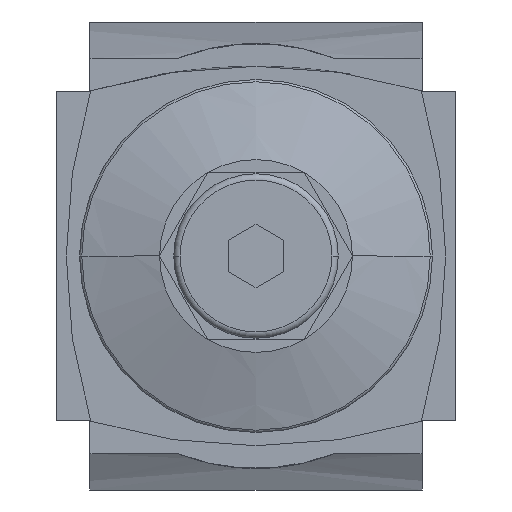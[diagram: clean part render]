
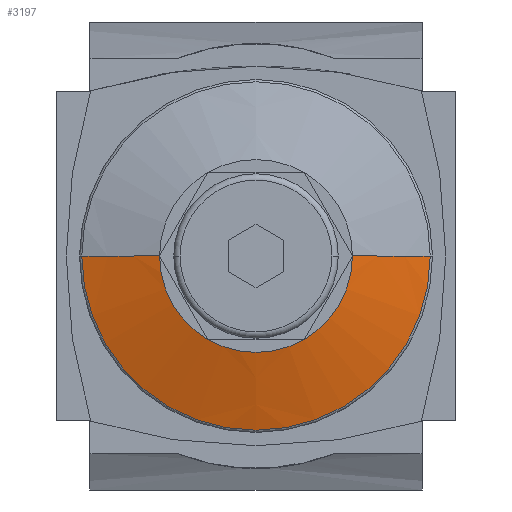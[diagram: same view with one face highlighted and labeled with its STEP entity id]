
A CAD part, front view. The second image highlights one B-rep face of the part: STEP entity #3197.
In plain terms, the highlighted free-form (B-spline) face has degree [3, 3] with [7, 4] control points.
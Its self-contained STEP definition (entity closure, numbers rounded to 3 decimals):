
#2634=CARTESIAN_POINT('',(0.,0.,464.379));
#2635=DIRECTION('',(0.,0.,1.));
#2636=DIRECTION('',(1.,0.,0.));
#2637=AXIS2_PLACEMENT_3D('',#2634,#2635,#2636);
#2639=CARTESIAN_POINT('',(0.,0.,467.797));
#2640=DIRECTION('',(0.,0.,1.));
#2641=DIRECTION('',(1.,0.,0.));
#2642=AXIS2_PLACEMENT_3D('',#2639,#2640,#2641);
#2644=CARTESIAN_POINT('',(0.,0.,467.797));
#2645=DIRECTION('',(0.,0.,1.));
#2646=DIRECTION('',(0.5,0.866,0.));
#2647=AXIS2_PLACEMENT_3D('',#2644,#2645,#2646);
#2649=CARTESIAN_POINT('',(0.,0.,467.797));
#2650=DIRECTION('',(0.,0.,1.));
#2651=DIRECTION('',(-0.5,0.866,0.));
#2652=AXIS2_PLACEMENT_3D('',#2649,#2650,#2651);
#2861=CARTESIAN_POINT('',(-77.654,0.,109.651));
#2862=DIRECTION('',(0.,1.,0.));
#2863=DIRECTION('',(0.251,0.,0.968));
#2864=AXIS2_PLACEMENT_3D('',#2861,#2862,#2863);
#2866=CARTESIAN_POINT('',(77.654,0.,
109.651));
#2867=DIRECTION('',(0.,-1.,0.));
#2868=DIRECTION('',(-0.251,0.,0.968));
#2869=AXIS2_PLACEMENT_3D('',#2866,#2867,#2868);
#2897=CARTESIAN_POINT('',(27.548,0.,464.379));
#2899=VERTEX_POINT('',#2897);
#2903=CARTESIAN_POINT('',(-27.548,0.,464.379));
#2905=VERTEX_POINT('',#2903);
#2923=CARTESIAN_POINT('',(15.25,0.,467.797));
#2924=CARTESIAN_POINT('',(7.625,13.207,467.797));
#2925=VERTEX_POINT('',#2923);
#2926=VERTEX_POINT('',#2924);
#2927=CARTESIAN_POINT('',(-7.625,13.207,467.797));
#2928=VERTEX_POINT('',#2927);
#2929=CARTESIAN_POINT('',(-15.25,0.,467.797));
#2930=VERTEX_POINT('',#2929);
#3155=CARTESIAN_POINT('',(27.738,-1.745,464.307));
#3156=CARTESIAN_POINT('',(23.505,-1.479,465.568));
#3157=CARTESIAN_POINT('',(19.249,-1.211,466.753));
#3158=CARTESIAN_POINT('',(14.973,-0.942,
467.861));
#3159=CARTESIAN_POINT('',(28.812,15.325,464.307));
#3160=CARTESIAN_POINT('',(24.415,12.986,465.568));
#3161=CARTESIAN_POINT('',(19.994,10.635,466.753));
#3162=CARTESIAN_POINT('',(15.553,8.272,467.861));
#3163=CARTESIAN_POINT('',(17.104,27.793,464.307));
#3164=CARTESIAN_POINT('',(14.493,23.551,465.568));
#3165=CARTESIAN_POINT('',(11.869,19.287,466.753));
#3166=CARTESIAN_POINT('',(9.233,15.003,467.861));
#3167=CARTESIAN_POINT('',(0.,27.793,464.307));
#3168=CARTESIAN_POINT('',(0.,23.551,465.568));
#3169=CARTESIAN_POINT('',(0.,19.287,466.753));
#3170=CARTESIAN_POINT('',(0.,15.003,467.861));
#3171=CARTESIAN_POINT('',(-17.104,27.793,464.307));
#3172=CARTESIAN_POINT('',(-14.493,23.551,465.568));
#3173=CARTESIAN_POINT('',(-11.869,19.287,466.753));
#3174=CARTESIAN_POINT('',(-9.233,15.003,467.861));
#3175=CARTESIAN_POINT('',(-28.812,15.325,464.307));
#3176=CARTESIAN_POINT('',(-24.415,12.986,465.568));
#3177=CARTESIAN_POINT('',(-19.994,10.635,466.753));
#3178=CARTESIAN_POINT('',(-15.553,8.272,467.861));
#3179=CARTESIAN_POINT('',(-27.738,-1.745,
464.307));
#3180=CARTESIAN_POINT('',(-23.505,-1.479,
465.568));
#3181=CARTESIAN_POINT('',(-19.249,-1.211,
466.753));
#3182=CARTESIAN_POINT('',(-14.973,-0.942,
467.861));
#3183=(BOUNDED_SURFACE()B_SPLINE_SURFACE(3,3,((#3155,#3156,#3157,#3158),(#3159,
#3160,#3161,#3162),(#3163,#3164,#3165,#3166),(#3167,#3168,#3169,#3170),(#3171,
#3172,#3173,#3174),(#3175,#3176,#3177,#3178),(#3179,#3180,#3181,#3182)),
.UNSPECIFIED.,.F.,.F.,.F.)B_SPLINE_SURFACE_WITH_KNOTS((4,3,4),(4,4),(0.,1.,
2.),(0.,1.),.UNSPECIFIED.)GEOMETRIC_REPRESENTATION_ITEM()RATIONAL_B_SPLINE_SURFACE(((1.187,1.187,1.187,1.187),(
0.938,0.938,0.938,0.938),(
0.938,0.938,0.938,0.938),(
1.187,1.187,1.187,1.187),(
0.938,0.938,0.938,0.938),(
0.938,0.938,0.938,0.938),(
1.187,1.187,1.187,1.187)))REPRESENTATION_ITEM('')SURFACE());
#3185=ORIENTED_EDGE('',*,*,#3184,.T.);
#3187=ORIENTED_EDGE('',*,*,#3186,.T.);
#3189=ORIENTED_EDGE('',*,*,#3188,.T.);
#3191=ORIENTED_EDGE('',*,*,#3190,.T.);
#3192=ORIENTED_EDGE('',*,*,#3148,.F.);
#3194=ORIENTED_EDGE('',*,*,#3193,.F.);
#3195=EDGE_LOOP('',(#3185,#3187,#3189,#3191,#3192,#3194));
#3196=FACE_OUTER_BOUND('',#3195,.F.);
#3197=ADVANCED_FACE('',(#3196),#3183,.T.);
#2638=CIRCLE('',#2637,27.548);
#2643=CIRCLE('',#2642,15.25);
#2648=CIRCLE('',#2647,15.25);
#2653=CIRCLE('',#2652,15.25);
#2865=CIRCLE('',#2864,370.);
#2870=CIRCLE('',#2869,370.);
#3148=EDGE_CURVE('',#2899,#2905,#2638,.T.);
#3184=EDGE_CURVE('',#2925,#2926,#2643,.T.);
#3186=EDGE_CURVE('',#2926,#2928,#2648,.T.);
#3188=EDGE_CURVE('',#2928,#2930,#2653,.T.);
#3190=EDGE_CURVE('',#2930,#2905,#2870,.T.);
#3193=EDGE_CURVE('',#2925,#2899,#2865,.T.);
